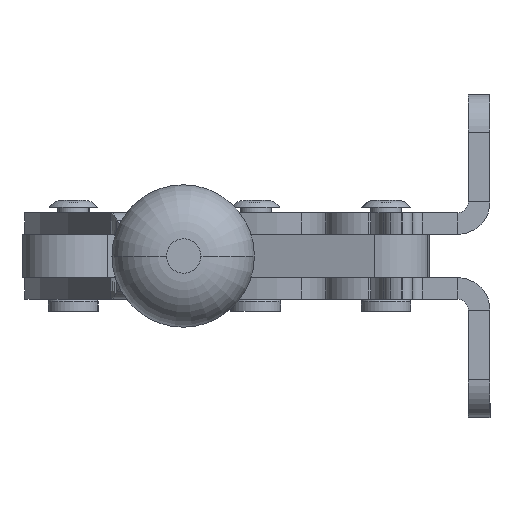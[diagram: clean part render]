
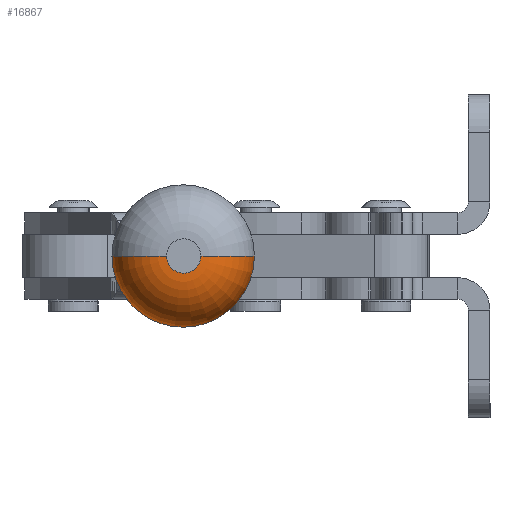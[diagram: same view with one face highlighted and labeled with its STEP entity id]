
A CAD part, left-side view. The second image highlights one B-rep face of the part: STEP entity #16867.
In plain terms, the highlighted toroidal (fillet/blend) face has major radius 3.181 mm and minor radius 10 mm.
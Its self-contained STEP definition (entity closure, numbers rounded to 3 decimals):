
#1318 = ORIENTED_EDGE ( 'NONE', *, *, #9828, .F. ) ;
#2047 = CARTESIAN_POINT ( 'NONE',  ( -13.176, 0., 10.314 ) ) ;
#2437 = EDGE_CURVE ( 'NONE', #6094, #16668, #7213, .T. ) ;
#2465 = AXIS2_PLACEMENT_3D ( 'NONE', #16651, #4721, #6194 ) ;
#2827 = CARTESIAN_POINT ( 'NONE',  ( 3.181, 0., 0. ) ) ;
#3377 = DIRECTION ( 'NONE',  ( 0., 0., 1. ) ) ;
#4035 = AXIS2_PLACEMENT_3D ( 'NONE', #5559, #5301, #10781 ) ;
#4260 = CARTESIAN_POINT ( 'NONE',  ( -3.181, 0., 0. ) ) ;
#4721 = DIRECTION ( 'NONE',  ( 0., 1., 0. ) ) ;
#4774 = ORIENTED_EDGE ( 'NONE', *, *, #2437, .F. ) ;
#5301 = DIRECTION ( 'NONE',  ( 0., 0., 1. ) ) ;
#5559 = CARTESIAN_POINT ( 'NONE',  ( 0., 0., 10. ) ) ;
#5840 = VERTEX_POINT ( 'NONE', #2047 ) ;
#6061 = CIRCLE ( 'NONE', #2465, 10. ) ;
#6094 = VERTEX_POINT ( 'NONE', #2827 ) ;
#6148 = DIRECTION ( 'NONE',  ( 1., 0., 0. ) ) ;
#6194 = DIRECTION ( 'NONE',  ( -1., 0., 0. ) ) ;
#6340 = CIRCLE ( 'NONE', #15242, 3.181 ) ;
#6384 = AXIS2_PLACEMENT_3D ( 'NONE', #15387, #3377, #6148 ) ;
#7213 = CIRCLE ( 'NONE', #8054, 10. ) ;
#7315 = DIRECTION ( 'NONE',  ( 0., -1., 0. ) ) ;
#7665 = DIRECTION ( 'NONE',  ( 1., 0., 0. ) ) ;
#8054 = AXIS2_PLACEMENT_3D ( 'NONE', #9929, #7315, #16558 ) ;
#9695 = EDGE_CURVE ( 'NONE', #12087, #5840, #6061, .T. ) ;
#9727 = ORIENTED_EDGE ( 'NONE', *, *, #9695, .T. ) ;
#9828 = EDGE_CURVE ( 'NONE', #12087, #6094, #6340, .T. ) ;
#9929 = CARTESIAN_POINT ( 'NONE',  ( 3.181, 0., 10. ) ) ;
#10781 = DIRECTION ( 'NONE',  ( 1., 0., 0. ) ) ;
#11447 = EDGE_CURVE ( 'NONE', #16668, #5840, #11662, .T. ) ;
#11662 = CIRCLE ( 'NONE', #6384, 13.176 ) ;
#12087 = VERTEX_POINT ( 'NONE', #4260 ) ;
#12685 = CARTESIAN_POINT ( 'NONE',  ( 13.176, 0., 10.314 ) ) ;
#14032 = TOROIDAL_SURFACE ( 'NONE', #4035, 3.181, 10. ) ;
#14570 = CARTESIAN_POINT ( 'NONE',  ( 0., 0., 0. ) ) ;
#14695 = EDGE_LOOP ( 'NONE', ( #1318, #9727, #16541, #4774 ) ) ;
#15242 = AXIS2_PLACEMENT_3D ( 'NONE', #14570, #15952, #7665 ) ;
#15387 = CARTESIAN_POINT ( 'NONE',  ( 0., 0., 10.314 ) ) ;
#15952 = DIRECTION ( 'NONE',  ( 0., 0., -1. ) ) ;
#16268 = FACE_OUTER_BOUND ( 'NONE', #14695, .T. ) ;
#16541 = ORIENTED_EDGE ( 'NONE', *, *, #11447, .F. ) ;
#16558 = DIRECTION ( 'NONE',  ( 0., 0., -1. ) ) ;
#16651 = CARTESIAN_POINT ( 'NONE',  ( -3.181, 0., 10. ) ) ;
#16668 = VERTEX_POINT ( 'NONE', #12685 ) ;
#16867 = ADVANCED_FACE ( 'NONE', ( #16268 ), #14032, .T. ) ;
